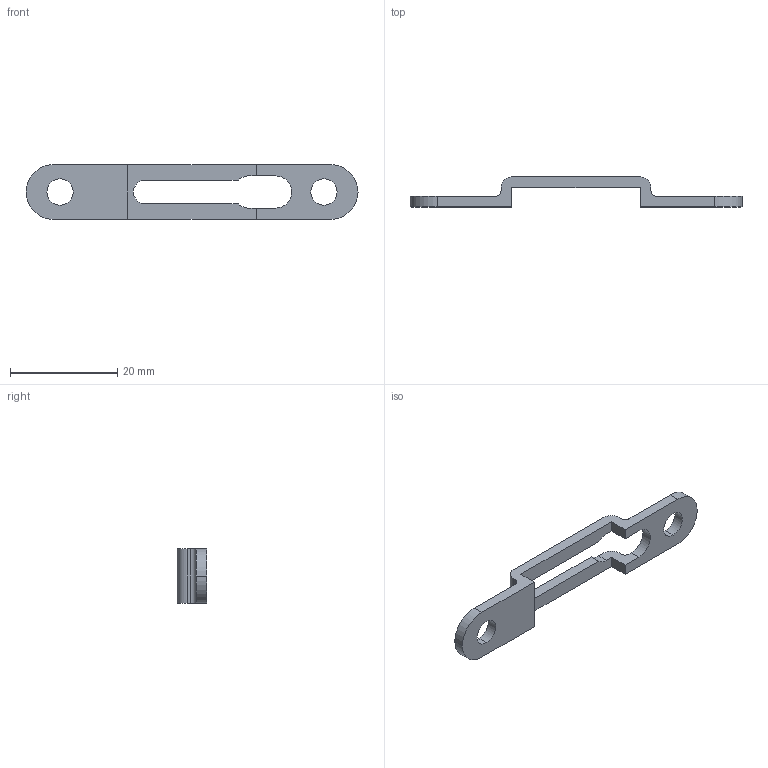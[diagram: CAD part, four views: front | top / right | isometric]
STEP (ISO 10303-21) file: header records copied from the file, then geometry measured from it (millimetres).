
FILE_DESCRIPTION (( 'STEP AP214' ), '1' );
FILE_NAME ('4060_V01_REFERENCE_BLOCK_NON-LOCKING_SINGLE_CLIP.STEP', '2025-04-01T19:13:25', ( '' ), ( '' ), 'SwSTEP 2.0', 'SolidWorks 2025', '' );
FILE_SCHEMA (( 'AUTOMOTIVE_DESIGN' ));
Length unit declared in the file: millimetre
Products named in the file (1): 4060_V01_REFERENCE_BLOCK_NON-LOCKING_SINGLE_CLIP
Bounding box: 61.9 x 5.59 x 10.2 mm (x, y, z)
Volume: 957.1 mm3; surface area: 1450.3 mm2
Topology: 1 solids, 1 shells, 36 faces, 108 edges, 72 vertices
Faces by surface type: cylinder 18, plane 18
Entity records: 1263 total; most frequent: DIRECTION 218, CARTESIAN_POINT 217, ORIENTED_EDGE 216, EDGE_CURVE 108, AXIS2_PLACEMENT_3D 73, LINE 72, VERTEX_POINT 72, VECTOR 72
